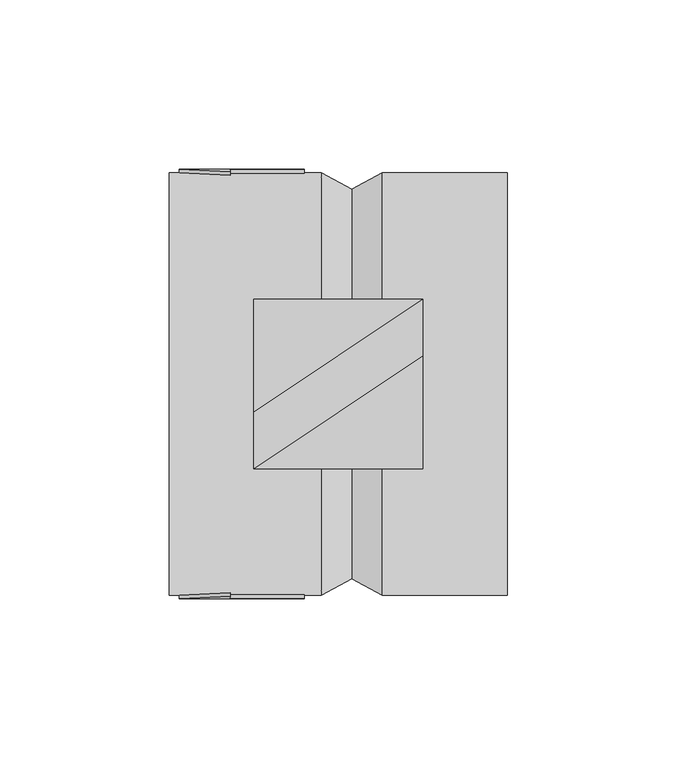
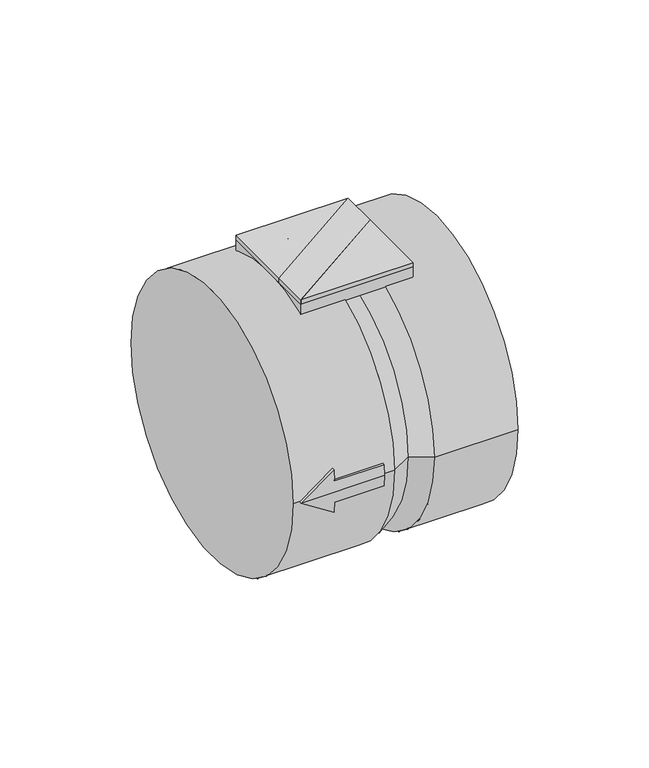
"""IFC4 building model written with IfcOpenShell, lengths in millimetres: damper geometry, KORF_Клапан_Обратный_Круглый_KOK : КОK 125."""

from ifc_helpers import new_model, si_unit, frame, origin, place, context, project, spatial, polyline, circle_curve, ellipse_curve, outline, extrude, source, transform, mapped, element, save
from ifc_brep_helpers import plane_surface, cylinder_surface, revolved_surface, advanced_brep


def damper_a36f345f(model_context):
    return source(origin(), model_context, "Body", "SolidModel", [
        extrude(outline(polyline([(75.0, 25.0), (75.0, 8.3333333), (25.0, -25.0), (25.0, -8.3333333), (75.0, 25.0)])), frame((0.0, 0.0, 62.5), z_axis=(0.0, 0.0, 1.0), x_axis=(1.0, 0.0, 0.0)), (0.0, 0.0, 1.0), 2.0),
        extrude(outline(polyline([(75.0, 25.0), (25.0, -8.3333333), (25.0, 25.0), (75.0, 25.0)])), frame((0.0, 0.0, 62.5), z_axis=(0.0, 0.0, 1.0), x_axis=(1.0, 0.0, 0.0)), (0.0, 0.0, 1.0), 2.0),
        extrude(outline(polyline([(25.0, -25.0), (75.0, 8.3333333), (75.0, -25.0), (25.0, -25.0)])), frame((0.0, 0.0, 62.5), z_axis=(0.0, 0.0, 1.0), x_axis=(1.0, 0.0, 0.0)), (0.0, 0.0, 1.0), 2.0),
        advanced_brep(
        [(18.0, -61.6948134, 10.0), (3.0, -62.5, 0.0), (3.0, -63.5, 0.0), (18.0, -62.707655, 10.0), (18.0, -61.6948134, -10.0), (18.0, -62.707655, -10.0), (18.0, -62.299679, -5.0), (18.0, -63.3028435, -5.0), (40.0, -62.299679, -5.0), (40.0, -63.3028435, -5.0), (40.0, -62.5, 0.0), (40.0, -62.299679, 5.0), (40.0, -63.3028435, 5.0), (40.0, -63.5, 0.0), (18.0, -62.299679, 5.0), (18.0, -63.3028435, 5.0)],
        [
            (0, 1, ellipse_curve(frame((3.0, 0.0, 0.0), z_axis=(0.5547001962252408, 0.0, -0.832050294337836), x_axis=(0.8320502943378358, 0.0, 0.5547001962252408)), 112.6734774, 62.5)),
            (1, 2),
            (2, 3, ellipse_curve(frame((3.0, 0.0, 0.0), z_axis=(-0.5547001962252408, 0.0, 0.832050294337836), x_axis=(-0.8320502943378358, 0.0, -0.5547001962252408)), 114.476253, 63.5)),
            (3, 0),
            (1, 4, ellipse_curve(frame((3.0, 0.0, 0.0), z_axis=(0.5547001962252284, 0.0, 0.8320502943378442), x_axis=(0.8320502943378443, 0.0, -0.5547001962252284)), 112.6734774, 62.5)),
            (4, 5),
            (5, 2, ellipse_curve(frame((3.0, 0.0, 0.0), z_axis=(-0.5547001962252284, 0.0, -0.8320502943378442), x_axis=(-0.8320502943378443, 0.0, 0.5547001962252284)), 114.476253, 63.5)),
            (4, 6, circle_curve(frame((18.0, 0.0, 0.0), z_axis=(-1.0, 0.0, 0.0), x_axis=(0.0, 1.0, 0.0)), 62.5)),
            (6, 7),
            (7, 5, circle_curve(frame((18.0, 0.0, 0.0), z_axis=(1.0, 0.0, 0.0), x_axis=(0.0, 1.0, 0.0)), 63.5)),
            (6, 8),
            (8, 9),
            (9, 7),
            (8, 10, circle_curve(frame((40.0, 0.0, 0.0), z_axis=(-1.0, 0.0, 0.0), x_axis=(0.0, 1.0, 0.0)), 62.5)),
            (10, 11, circle_curve(frame((40.0, 0.0, 0.0), z_axis=(-1.0, 0.0, 0.0), x_axis=(0.0, 1.0, 0.0)), 62.5)),
            (11, 12),
            (12, 13, circle_curve(frame((40.0, 0.0, 0.0), z_axis=(1.0, 0.0, 0.0), x_axis=(0.0, 1.0, 0.0)), 63.5)),
            (13, 9, circle_curve(frame((40.0, 0.0, 0.0), z_axis=(1.0, 0.0, 0.0), x_axis=(0.0, 1.0, 0.0)), 63.5)),
            (11, 14),
            (14, 15),
            (15, 12),
            (14, 0, circle_curve(frame((18.0, 0.0, 0.0), z_axis=(-1.0, 0.0, 0.0), x_axis=(0.0, 1.0, 0.0)), 62.5)),
            (3, 15, circle_curve(frame((18.0, 0.0, 0.0), z_axis=(1.0, 0.0, 0.0), x_axis=(0.0, 1.0, 0.0)), 63.5)),
            (1, 10),
            (2, 13),
        ],
        [
            plane_surface(frame((18.0, -64.5, 10.0), z_axis=(-0.5547001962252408, 0.0, 0.832050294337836), x_axis=(0.0, 1.0, 0.0))),
            plane_surface(frame((3.0, -64.5, 0.0), z_axis=(-0.5547001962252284, 0.0, -0.8320502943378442), x_axis=(0.0, 1.0, 0.0))),
            plane_surface(frame((18.0, -64.5, -10.0), z_axis=(1.0, 0.0, 0.0), x_axis=(0.0, 1.0, 0.0))),
            plane_surface(frame((18.0, -64.5, -5.0), z_axis=(0.0, 0.0, -1.0), x_axis=(0.0, 1.0, 0.0))),
            plane_surface(frame((40.0, -64.5, -5.0), z_axis=(1.0, 0.0, 0.0), x_axis=(0.0, 1.0, 0.0))),
            plane_surface(frame((40.0, -64.5, 5.0), z_axis=(0.0, 0.0, 1.0), x_axis=(0.0, 1.0, 0.0))),
            plane_surface(frame((18.0, -64.5, 5.0), z_axis=(1.0, 0.0, 0.0), x_axis=(0.0, 1.0, 0.0))),
            revolved_surface(polyline([(96.75000003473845, 62.5, 0.0), (-90.75000003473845, 62.5, 0.0)]), (0.0, 0.0, 0.0), (1.0, 0.0, 0.0)),
            revolved_surface(polyline([(96.7500000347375, 62.5, 0.0), (-90.7500000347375, 62.5, 0.0)]), (0.0, 0.0, 0.0), (1.0, 0.0, 0.0)),
            cylinder_surface(frame((0.0, 0.0, 0.0), z_axis=(-1.0, 0.0, 0.0), x_axis=(0.0, 1.0, 0.0)), 63.5),
        ],
        [
            (0, [[1, 2, 3, 4]]),
            (1, [[5, 6, 7, -2]]),
            (2, [[8, 9, 10, -6]]),
            (3, [[11, 12, 13, -9]]),
            (4, [[14, 15, 16, 17, 18, -12]]),
            (5, [[19, 20, 21, -16]]),
            (6, [[22, -4, 23, -20]]),
            (7, [[24, -14, -11, -8, -5]]),
            (8, [[-24, -1, -22, -19, -15]]),
            (9, [[25, -17, -21, -23, -3]]),
            (9, [[-25, -7, -10, -13, -18]]),
        ],
    ),
        advanced_brep(
        [(3.0, 62.5, 0.0), (18.0, 61.6948134, 10.0), (18.0, 62.707655, 10.0), (3.0, 63.5, 0.0), (18.0, 61.6948134, -10.0), (18.0, 62.707655, -10.0), (18.0, 62.299679, -5.0), (18.0, 63.3028435, -5.0), (40.0, 62.299679, -5.0), (40.0, 63.3028435, -5.0), (40.0, 62.5, 0.0), (40.0, 63.5, 0.0), (40.0, 63.3028435, 5.0), (40.0, 62.299679, 5.0), (18.0, 62.299679, 5.0), (18.0, 63.3028435, 5.0)],
        [
            (0, 1, ellipse_curve(frame((3.0, 0.0, 0.0), z_axis=(0.5547001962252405, 0.0, -0.8320502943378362), x_axis=(0.8320502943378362, 0.0, 0.5547001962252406)), 112.6734774, 62.5)),
            (1, 2),
            (2, 3, ellipse_curve(frame((3.0, 0.0, 0.0), z_axis=(-0.5547001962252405, 0.0, 0.8320502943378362), x_axis=(-0.8320502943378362, 0.0, -0.5547001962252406)), 114.476253, 63.5)),
            (3, 0),
            (4, 0, ellipse_curve(frame((3.0, 0.0, 0.0), z_axis=(0.554700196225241, 0.0, 0.8320502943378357), x_axis=(0.8320502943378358, 0.0, -0.554700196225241)), 112.6734774, 62.5)),
            (3, 5, ellipse_curve(frame((3.0, 0.0, 0.0), z_axis=(-0.554700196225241, 0.0, -0.8320502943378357), x_axis=(-0.8320502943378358, 0.0, 0.554700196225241)), 114.476253, 63.5)),
            (5, 4),
            (6, 4, circle_curve(frame((18.0, 0.0, 0.0), z_axis=(-1.0, 0.0, 0.0), x_axis=(0.0, 1.0, 0.0)), 62.5)),
            (5, 7, circle_curve(frame((18.0, 0.0, 0.0), z_axis=(1.0, 0.0, 0.0), x_axis=(0.0, 1.0, 0.0)), 63.5)),
            (7, 6),
            (8, 6),
            (7, 9),
            (9, 8),
            (10, 8, circle_curve(frame((40.0, 0.0, 0.0), z_axis=(-1.0, 0.0, 0.0), x_axis=(0.0, 1.0, 0.0)), 62.5)),
            (9, 11, circle_curve(frame((40.0, 0.0, 0.0), z_axis=(1.0, 0.0, 0.0), x_axis=(0.0, 1.0, 0.0)), 63.5)),
            (11, 12, circle_curve(frame((40.0, 0.0, 0.0), z_axis=(1.0, 0.0, 0.0), x_axis=(0.0, 1.0, 0.0)), 63.5)),
            (12, 13),
            (13, 10, circle_curve(frame((40.0, 0.0, 0.0), z_axis=(-1.0, 0.0, 0.0), x_axis=(0.0, 1.0, 0.0)), 62.5)),
            (14, 13),
            (12, 15),
            (15, 14),
            (1, 14, circle_curve(frame((18.0, 0.0, 0.0), z_axis=(-1.0, 0.0, 0.0), x_axis=(0.0, 1.0, 0.0)), 62.5)),
            (15, 2, circle_curve(frame((18.0, 0.0, 0.0), z_axis=(1.0, 0.0, 0.0), x_axis=(0.0, 1.0, 0.0)), 63.5)),
            (10, 0),
            (11, 3),
        ],
        [
            plane_surface(frame((18.0, 60.5, 10.0), z_axis=(-0.5547001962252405, 0.0, 0.8320502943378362), x_axis=(0.0, 1.0, 0.0))),
            plane_surface(frame((3.0, 60.5, 0.0), z_axis=(-0.554700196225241, 0.0, -0.8320502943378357), x_axis=(0.0, 1.0, 0.0))),
            plane_surface(frame((18.0, 60.5, -10.0), z_axis=(1.0, 0.0, 0.0), x_axis=(0.0, 1.0, 0.0))),
            plane_surface(frame((18.0, 60.5, -5.0), z_axis=(0.0, 0.0, -1.0), x_axis=(0.0, 1.0, 0.0))),
            plane_surface(frame((40.0, 60.5, -5.0), z_axis=(1.0, 0.0, 0.0), x_axis=(0.0, 1.0, 0.0))),
            plane_surface(frame((40.0, 60.5, 5.0), z_axis=(0.0, 0.0, 1.0), x_axis=(0.0, 1.0, 0.0))),
            plane_surface(frame((18.0, 60.5, 5.0), z_axis=(1.0, 0.0, 0.0), x_axis=(0.0, 1.0, 0.0))),
            revolved_surface(polyline([(96.7500000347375, 62.5, 0.0), (-90.7500000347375, 62.5, 0.0)]), (0.0, 0.0, 0.0), (1.0, 0.0, 0.0)),
            revolved_surface(polyline([(96.75000003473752, 62.5, 0.0), (-90.75000003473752, 62.5, 0.0)]), (0.0, 0.0, 0.0), (1.0, 0.0, 0.0)),
            cylinder_surface(frame((0.0, 0.0, 0.0), z_axis=(-1.0, 0.0, 0.0), x_axis=(0.0, 1.0, 0.0)), 63.5),
        ],
        [
            (0, [[1, 2, 3, 4]]),
            (1, [[5, -4, 6, 7]]),
            (2, [[8, -7, 9, 10]]),
            (3, [[11, -10, 12, 13]]),
            (4, [[14, -13, 15, 16, 17, 18]]),
            (5, [[19, -17, 20, 21]]),
            (6, [[22, -21, 23, -2]]),
            (7, [[24, -5, -8, -11, -14]]),
            (8, [[-24, -18, -19, -22, -1]]),
            (9, [[25, -3, -23, -20, -16]]),
            (9, [[-25, -15, -12, -9, -6]]),
        ],
    ),
        advanced_brep(
        [(100.0, -62.5, 0.0), (100.0, 62.5, 0.0), (0.0, -62.5, 0.0), (0.0, 62.5, 0.0), (63.0, -62.5, 0.0), (63.0, 62.5, 0.0), (45.0, 62.5, 0.0), (45.0, -62.5, 0.0), (54.0, 57.5, 0.0), (54.0, -57.5, 0.0)],
        [
            (0, 1, circle_curve(frame((100.0, 0.0, 0.0), z_axis=(1.0, 0.0, 0.0), x_axis=(0.0, 1.0, 0.0)), 62.5)),
            (1, 0, circle_curve(frame((100.0, 0.0, 0.0), z_axis=(1.0, 0.0, 0.0), x_axis=(0.0, 1.0, 0.0)), 62.5)),
            (2, 3, circle_curve(frame((0.0, 0.0, 0.0), z_axis=(-1.0, 0.0, 0.0), x_axis=(0.0, 1.0, 0.0)), 62.5)),
            (3, 2, circle_curve(frame((0.0, 0.0, 0.0), z_axis=(-1.0, 0.0, 0.0), x_axis=(0.0, 1.0, 0.0)), 62.5)),
            (0, 4),
            (4, 5, circle_curve(frame((63.0, 0.0, 0.0), z_axis=(1.0, 0.0, 0.0), x_axis=(0.0, 1.0, 0.0)), 62.5)),
            (5, 1),
            (3, 6),
            (6, 7, circle_curve(frame((45.0, 0.0, 0.0), z_axis=(-1.0, 0.0, 0.0), x_axis=(0.0, 1.0, 0.0)), 62.5)),
            (7, 2),
            (5, 4, circle_curve(frame((63.0, 0.0, 0.0), z_axis=(1.0, 0.0, 0.0), x_axis=(0.0, 1.0, 0.0)), 62.5)),
            (7, 6, circle_curve(frame((45.0, 0.0, 0.0), z_axis=(-1.0, 0.0, 0.0), x_axis=(0.0, 1.0, 0.0)), 62.5)),
            (6, 8),
            (8, 9, circle_curve(frame((54.0, 0.0, 0.0), z_axis=(-1.0, 0.0, 0.0), x_axis=(0.0, -1.0, 0.0)), 57.5)),
            (9, 7),
            (8, 5),
            (4, 9),
            (9, 8, circle_curve(frame((54.0, 0.0, 0.0), z_axis=(-1.0, 0.0, 0.0), x_axis=(0.0, 1.0, 0.0)), 57.5)),
        ],
        [
            plane_surface(frame((100.0, 62.5, 0.0), z_axis=(1.0, 0.0, 0.0), x_axis=(0.0, 0.0, 1.0))),
            plane_surface(frame((0.0, 62.5, 0.0), z_axis=(-1.0, 0.0, 0.0), x_axis=(0.0, 0.0, -1.0))),
            cylinder_surface(frame((0.0, 0.0, 0.0), z_axis=(1.0, 0.0, 0.0), x_axis=(0.0, 1.0, 0.0)), 62.5),
            revolved_surface(polyline([(45.0, -62.5, 0.0), (54.0, -57.5, 0.0)]), (0.0, 0.0, 0.0), (1.0, 0.0, 0.0)),
            revolved_surface(polyline([(54.0, -57.5, 0.0), (63.0, -62.5, 0.0)]), (0.0, 0.0, 0.0), (1.0, 0.0, 0.0)),
            revolved_surface(polyline([(45.0, 62.5, 0.0), (54.0, 57.5, 0.0)]), (0.0, 0.0, 0.0), (1.0, 0.0, 0.0)),
            revolved_surface(polyline([(54.0, 57.5, 0.0), (63.0, 62.5, 0.0)]), (0.0, 0.0, 0.0), (1.0, 0.0, 0.0)),
        ],
        [
            (0, [[1, 2]]),
            (1, [[3, 4]]),
            (2, [[-1, 5, 6, 7]]),
            (2, [[-4, 8, 9, 10]]),
            (2, [[-2, -7, 11, -5]]),
            (2, [[-3, -10, 12, -8]]),
            (3, [[13, 14, 15, -9]]),
            (4, [[-14, 16, -6, 17]]),
            (5, [[-13, -12, -15, 18]]),
            (6, [[-16, -18, -17, -11]]),
        ],
    ),
        advanced_brep(
        [(25.0, 25.0, 57.2821962), (75.0, 25.0, 57.2821962), (75.0, 0.0, 62.5), (75.0, -25.0, 57.2821962), (25.0, -25.0, 57.2821962), (25.0, 0.0, 62.5), (75.0, 25.0, 62.5), (25.0, 25.0, 62.5), (25.0, -25.0, 62.5), (75.0, -25.0, 62.5)],
        [
            (0, 1),
            (1, 2, circle_curve(frame((75.0, 0.0, 0.0), z_axis=(1.0, 0.0, 0.0), x_axis=(0.0, 1.0, 0.0)), 62.5)),
            (2, 3, circle_curve(frame((75.0, 0.0, 0.0), z_axis=(1.0, 0.0, 0.0), x_axis=(0.0, 1.0, 0.0)), 62.5)),
            (3, 4),
            (4, 5, circle_curve(frame((25.0, 0.0, 0.0), z_axis=(-1.0, 0.0, 0.0), x_axis=(0.0, 1.0, 0.0)), 62.5)),
            (5, 0, circle_curve(frame((25.0, 0.0, 0.0), z_axis=(-1.0, 0.0, 0.0), x_axis=(0.0, 1.0, 0.0)), 62.5)),
            (6, 7),
            (7, 5),
            (5, 8),
            (8, 9),
            (9, 2),
            (2, 6),
            (6, 1),
            (0, 7),
            (4, 8),
            (3, 9),
        ],
        [
            revolved_surface(polyline([(75.0, 62.5, 0.0), (25.0, 62.5, 0.0)]), (0.0, 0.0, 0.0), (1.0, 0.0, 0.0)),
            plane_surface(frame((25.0, 25.0, 62.5), z_axis=(0.0, 0.0, 1.0), x_axis=(-1.0, 0.0, 0.0))),
            plane_surface(frame((75.0, 25.0, 62.5), z_axis=(0.0, 1.0, 0.0), x_axis=(0.0, 0.0, -1.0))),
            plane_surface(frame((25.0, 25.0, 62.5), z_axis=(-1.0, 0.0, 0.0), x_axis=(0.0, 0.0, -1.0))),
            plane_surface(frame((25.0, -25.0, 62.5), z_axis=(0.0, -1.0, 0.0), x_axis=(0.0, 0.0, -1.0))),
            plane_surface(frame((75.0, -25.0, 62.5), z_axis=(1.0, 0.0, 0.0), x_axis=(0.0, 0.0, -1.0))),
        ],
        [
            (0, [[1, 2, 3, 4, 5, 6]]),
            (1, [[7, 8, 9, 10, 11, 12]]),
            (2, [[-7, 13, -1, 14]]),
            (3, [[-8, -14, -6]]),
            (3, [[-9, -5, 15]]),
            (4, [[-10, -15, -4, 16]]),
            (5, [[-11, -16, -3]]),
            (5, [[-12, -2, -13]]),
        ],
    ),
    ])


if __name__ == "__main__":
    model = new_model("IFC4")
    model_context = context("Model", 3, world=origin())
    ifc_project = project(units=[si_unit("LENGTHUNIT", "METRE", prefix="MILLI")], contexts=[model_context])
    site = spatial("IfcSite", under=ifc_project)
    building = spatial("IfcBuilding", under=site)
    placement = place(None, origin())
    damper_shape = damper_a36f345f(model_context)
    element("IfcDamper", 1, ObjectType="KORF_Клапан_Обратный_Круглый_KOK : КОK 125", at=placement, inside=building, context=model_context, shape_type="MappedRepresentation", body=[
        mapped(damper_shape, transform((0.0, 0.0, 0.0), x_axis=(1.0, 0.0, 0.0), y_axis=(0.0, 1.0, 0.0), z_axis=(0.0, 0.0, 1.0))),
    ])
    save(model, "model.ifc")
